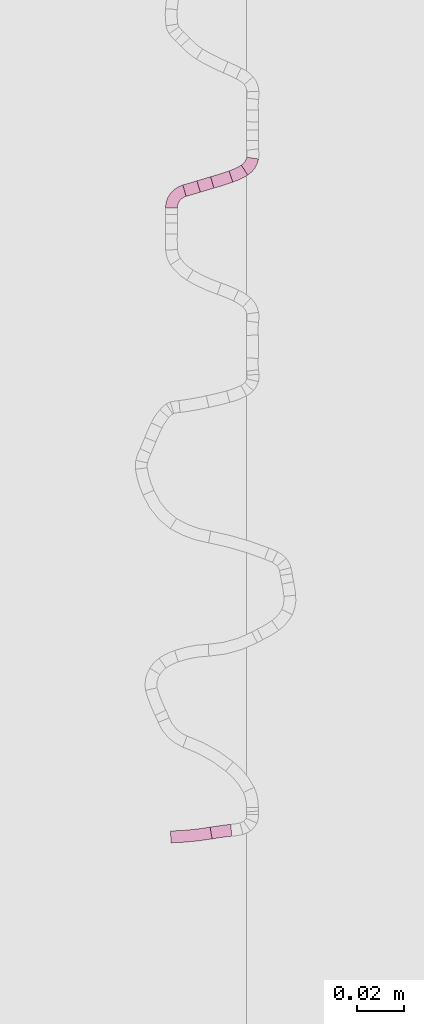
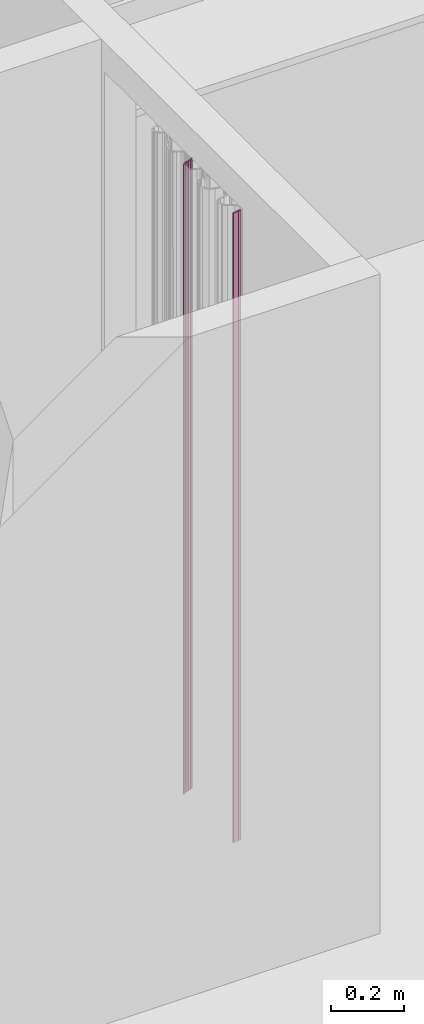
# One storey, part 318 of 418: 8 furnishings.
"""IFC2X3 building model written with IfcOpenShell, lengths in millimetres."""

import ifcopenshell
import ifcopenshell.guid

model = None  # the IFC model being written
_history = None  # IfcOwnerHistory: only IFC2X3 demands one
_inside = {}  # id of a spatial element -> (the spatial element, [elements in it])
_under = {}  # id of a project, library or spatial element -> (it, [spatial elements below it])
_declared = {}  # id of a project -> (the project, [libraries it declares])
_typed = {}  # id of a type object -> (the type object, [elements of that type])
_made_of = {}  # id of a material, layer set ... -> (it, [elements and type objects made of it])


def new_model(schema):
    """Start an empty IFC model of exactly this schema.

    Asked for "IFC4X3", IfcOpenShell would pick the latest addendum, in which some entities
    have other attributes; the version numbers below select the first issue.
    IFC2X3 requires an IfcOwnerHistory on every rooted entity: one is made here for all.
    """
    global model, _history
    if schema == "IFC4X3":
        model = ifcopenshell.file(schema_version=(4, 3, 0, 0))
    else:
        model = ifcopenshell.file(schema=schema)
    _inside.clear()
    _under.clear()
    _declared.clear()
    _typed.clear()
    _made_of.clear()
    _history = None
    if model.schema == "IFC2X3":
        org = make("IfcOrganization", Name="unknown")
        user = make(
            "IfcPersonAndOrganization",
            ThePerson=make("IfcPerson", FamilyName="unknown"),
            TheOrganization=org,
        )
        app = make(
            "IfcApplication",
            ApplicationDeveloper=org,
            Version="unknown",
            ApplicationFullName="unknown",
            ApplicationIdentifier="unknown",
        )
        _history = make(
            "IfcOwnerHistory",
            OwningUser=user,
            OwningApplication=app,
            ChangeAction="ADDED",
            CreationDate=0,
        )
    return model


def make(cls, **values):
    """One entity of the class cls with the attributes given. An attribute that is None is left unset."""
    return model.create_entity(
        cls, **{name: value for name, value in values.items() if value is not None}
    )


def entity(cls, *values):
    """Any entity or typed value of the class cls, its attributes in the order of the schema. None: left unset."""
    e = model.create_entity(cls)
    for i, value in enumerate(values):
        if value is not None:
            e[i] = value
    return e


def rooted(cls, **values):
    """An entity with a GlobalId (a new one), such as an element, a storey or a relation."""
    return make(cls, GlobalId=ifcopenshell.guid.new(), OwnerHistory=_history, **values)


def si_unit(unit_type, name, prefix=None):
    """IfcSIUnit, for example si_unit("LENGTHUNIT", "METRE", prefix="MILLI")."""
    return make("IfcSIUnit", UnitType=unit_type, Prefix=prefix, Name=name)


def converted_unit(unit_type, name, factor, base, dimensions=None, offset=None):
    """IfcConversionBasedUnit, such as the inch: factor (a typed value) times the base unit."""
    return make(
        "IfcConversionBasedUnit"
        if offset is None
        else "IfcConversionBasedUnitWithOffset",
        ConversionOffset=offset,
        Dimensions=None
        if dimensions is None
        else entity("IfcDimensionalExponents", *dimensions),
        UnitType=unit_type,
        Name=name,
        ConversionFactor=make(
            "IfcMeasureWithUnit", ValueComponent=factor, UnitComponent=base
        ),
    )


def derived_unit(unit_type, elements):
    """IfcDerivedUnit: a product of units, each with its exponent."""
    return make(
        "IfcDerivedUnit",
        Elements=[
            make("IfcDerivedUnitElement", Unit=unit, Exponent=power)
            for unit, power in elements
        ],
        UnitType=unit_type,
    )


def money_unit(currency):
    """IfcMonetaryUnit."""
    return make("IfcMonetaryUnit", Currency=currency)


def assignment(units):
    """IfcUnitAssignment: the units of a project."""
    return None if units is None else make("IfcUnitAssignment", Units=units)


def point(xyz):
    """IfcCartesianPoint."""
    return None if xyz is None else make("IfcCartesianPoint", Coordinates=xyz)


def direction(xyz):
    """IfcDirection."""
    return None if xyz is None else make("IfcDirection", DirectionRatios=xyz)


def frame(location, z_axis=None, x_axis=None):
    """IfcAxis2Placement3D, a coordinate frame: its origin and axes. An axis left out is left unset."""
    return make(
        "IfcAxis2Placement3D",
        Location=point(location),
        Axis=direction(z_axis),
        RefDirection=direction(x_axis),
    )


def frame_2d(location, x_axis=None):
    """IfcAxis2Placement2D, a coordinate frame in the plane: its origin and x axis."""
    return make(
        "IfcAxis2Placement2D", Location=point(location), RefDirection=direction(x_axis)
    )


def origin_with_axes():
    """The frame at (0, 0, 0) with the z axis (0, 0, 1) and the x axis (1, 0, 0) written out."""
    return frame((0.0, 0.0, 0.0), z_axis=(0.0, 0.0, 1.0), x_axis=(1.0, 0.0, 0.0))


def place(relative_to, where):
    """IfcLocalPlacement: puts the frame where relative to a parent placement (None: the world)."""
    return make(
        "IfcLocalPlacement", PlacementRelTo=relative_to, RelativePlacement=where
    )


def context(
    kind, dimensions, precision=None, world=None, true_north=None, identifier=None
):
    """IfcGeometricRepresentationContext, for example the 3D "Model" context."""
    return make(
        "IfcGeometricRepresentationContext",
        ContextIdentifier=identifier,
        ContextType=kind,
        CoordinateSpaceDimension=dimensions,
        Precision=precision,
        WorldCoordinateSystem=world,
        TrueNorth=true_north,
    )


def subcontext(parent, identifier, kind, view, scale=None):
    """IfcGeometricRepresentationSubContext, for example "Body" below "Model"."""
    return make(
        "IfcGeometricRepresentationSubContext",
        ContextIdentifier=identifier,
        ContextType=kind,
        ParentContext=parent,
        TargetScale=scale,
        TargetView=view,
    )


def project(units=None, contexts=None):
    """IfcProject with its units and contexts."""
    return rooted(
        "IfcProject",
        Name="project",
        RepresentationContexts=contexts,
        UnitsInContext=assignment(units),
    )


def spatial(cls, under=None, at=None, **own):
    """A site, building, storey or space (cls), placed at a placement, below another one or the project."""
    s = rooted(cls, ObjectPlacement=at, **own)
    if under is not None:
        _under.setdefault(under.id(), (under, []))[1].append(s)
    return s


def polyline(points):
    """IfcPolyline through the points."""
    return make("IfcPolyline", Points=[point(p) for p in points])


def circle_curve(where, radius):
    """IfcCircle in the frame where."""
    return make("IfcCircle", Position=where, Radius=radius)


def parameter(value):
    """IfcParameterValue: where a trimmed curve begins or ends, as a parameter of its basis curve."""
    return model.create_entity("IfcParameterValue", value)


def trimmed(basis, trim1, trim2, sense, master):
    """IfcTrimmedCurve: the piece of a basis curve between two trims."""
    return make(
        "IfcTrimmedCurve",
        BasisCurve=basis,
        Trim1=trim1,
        Trim2=trim2,
        SenseAgreement=sense,
        MasterRepresentation=master,
    )


def segment(curve, same_sense, transition):
    """IfcCompositeCurveSegment."""
    return make(
        "IfcCompositeCurveSegment",
        Transition=transition,
        SameSense=same_sense,
        ParentCurve=curve,
    )


def composite_curve(segments, self_intersect=None):
    """IfcCompositeCurve: segments joined end to end."""
    return make("IfcCompositeCurve", Segments=segments, SelfIntersect=self_intersect)


def outline(outer, holes=None, kind="AREA"):
    """IfcArbitraryClosedProfileDef: a profile drawn as a closed curve; with holes, ...WithVoids."""
    if holes is None:
        return make("IfcArbitraryClosedProfileDef", ProfileType=kind, OuterCurve=outer)
    return make(
        "IfcArbitraryProfileDefWithVoids",
        ProfileType=kind,
        OuterCurve=outer,
        InnerCurves=holes,
    )


def extrude(swept, where, along, depth):
    """IfcExtrudedAreaSolid: the profile swept, set in the frame where, extruded along a direction by depth."""
    return make(
        "IfcExtrudedAreaSolid",
        SweptArea=swept,
        Position=where,
        ExtrudedDirection=direction(along),
        Depth=depth,
    )


def shape(context_of_items, identifier, shape_type, items):
    """IfcShapeRepresentation: the items that make up one representation, for example the "Body"."""
    return make(
        "IfcShapeRepresentation",
        ContextOfItems=context_of_items,
        RepresentationIdentifier=identifier,
        RepresentationType=shape_type,
        Items=items,
    )


def material(Name=None, Category=None):
    """IfcMaterial."""
    return make("IfcMaterial", Name=Name, Category=Category)


def made_of(thing, what):
    """Note that an element or type object is made of a material, layer set ...; save() writes the relation."""
    if what is not None:
        _made_of.setdefault(what.id(), (what, []))[1].append(thing)
    return thing


def type_object(cls, material=None, **own):
    """A type object (cls), such as IfcWallType, which elements share."""
    return made_of(rooted(cls, **own), material)


def element(
    cls,
    number,
    at=None,
    inside=None,
    cuts=None,
    type_object=None,
    material=None,
    context=None,
    identifier="Body",
    shape_type=None,
    held_by="IfcProductDefinitionShape",
    body=None,
    shapes=None,
    **own,
):
    """One element of the class cls, such as IfcWall. Its Tag is "e" and its number.

    at: its placement. inside: the storey or other place that contains it. cuts: it is an
    opening in that element (IfcRelVoidsElement). A single representation is given by context,
    identifier, shape_type and body (its items); several are given by shapes. held_by: the class
    of the entity that holds the representations. save() writes the other relations.
    """
    e = rooted(cls, Tag="e%d" % number, ObjectPlacement=at, **own)
    if body is not None:
        shapes = [shape(context, identifier, shape_type, body)]
    if shapes is not None:
        e.Representation = make(held_by, Representations=shapes)
    if inside is not None:
        _inside.setdefault(inside.id(), (inside, []))[1].append(e)
    if cuts is not None:
        rooted(
            "IfcRelVoidsElement", RelatingBuildingElement=cuts, RelatedOpeningElement=e
        )
    if type_object is not None:
        _typed.setdefault(type_object.id(), (type_object, []))[1].append(e)
    return made_of(e, material)


def aggregate(whole, parts):
    """IfcRelAggregates: a whole, such as a stair, and the parts it consists of."""
    return rooted("IfcRelAggregates", RelatingObject=whole, RelatedObjects=parts)


def save(model, path):
    """Write the relations noted so far, then the file.

    IfcRelAggregates (storeys below a building ...), IfcRelContainedInSpatialStructure (elements
    in a storey), IfcRelDefinesByType, IfcRelAssociatesMaterial and IfcRelDeclares: one each for
    every whole, place, type object, material and project.
    """
    for whole, parts in _under.values():
        aggregate(whole, parts)
    for where, things in _inside.values():
        rooted(
            "IfcRelContainedInSpatialStructure",
            RelatedElements=things,
            RelatingStructure=where,
        )
    for kind, things in _typed.values():
        rooted("IfcRelDefinesByType", RelatedObjects=things, RelatingType=kind)
    for what, things in _made_of.values():
        rooted("IfcRelAssociatesMaterial", RelatedObjects=things, RelatingMaterial=what)
    for by, libraries in _declared.values():
        rooted("IfcRelDeclares", RelatingContext=by, RelatedDefinitions=libraries)
    model.write(path)


model = new_model("IFC2X3")

# Units and contexts
model_context = context("Model", 3, precision=0.01, world=origin_with_axes(), true_north=direction((0.0, 1.0)))
body_context = subcontext(model_context, "Body", "Model", "MODEL_VIEW")
ifc_project = project(units=[si_unit("LENGTHUNIT", "METRE", prefix="MILLI"), si_unit("AREAUNIT", "SQUARE_METRE"), si_unit("VOLUMEUNIT", "CUBIC_METRE"), converted_unit("PLANEANGLEUNIT", "DEGREE", entity("IfcPlaneAngleMeasure", 0.0174532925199), si_unit("PLANEANGLEUNIT", "RADIAN"), dimensions=[0, 0, 0, 0, 0, 0, 0]), si_unit("SOLIDANGLEUNIT", "STERADIAN"), money_unit("EUR"), converted_unit("TIMEUNIT", "Year", entity("IfcTimeMeasure", 31556926.0), si_unit("TIMEUNIT", "SECOND"), dimensions=[0, 0, 1, 0, 0, 0, 0]), si_unit("MASSUNIT", "GRAM", prefix="KILO"), si_unit("THERMODYNAMICTEMPERATUREUNIT", "DEGREE_CELSIUS"), si_unit("LUMINOUSINTENSITYUNIT", "LUMEN"), si_unit("ENERGYUNIT", "JOULE", prefix="MEGA"), derived_unit("THERMALCONDUCTANCEUNIT", [(si_unit("POWERUNIT", "WATT"), 1), (si_unit("LENGTHUNIT", "METRE"), -1), (si_unit("THERMODYNAMICTEMPERATUREUNIT", "KELVIN"), -1)]), derived_unit("SPECIFICHEATCAPACITYUNIT", [(si_unit("ENERGYUNIT", "JOULE"), 1), (si_unit("MASSUNIT", "GRAM", prefix="KILO"), -1), (si_unit("THERMODYNAMICTEMPERATUREUNIT", "KELVIN"), -1)]), derived_unit("MASSDENSITYUNIT", [(si_unit("MASSUNIT", "GRAM", prefix="KILO"), 1), (si_unit("VOLUMEUNIT", "CUBIC_METRE"), -1)])], contexts=[model_context])

# Site, building, storey
site_placement = place(None, origin_with_axes())
site = spatial("IfcSite", under=ifc_project, at=site_placement, Name="Paldiski mnt 245/1, Tallinn, Harjumaa", CompositionType="COMPLEX")
building_placement = place(site_placement, origin_with_axes())
building = spatial("IfcBuilding", under=site, at=building_placement, Name="RKAS Hoone üldnimetus (kasutust iseloomustav) -> IFC Project Manager -> SOLIBRI", CompositionType="ELEMENT")
storey_placement = place(building_placement, origin_with_axes())
storey = spatial("IfcBuildingStorey", under=building, at=storey_placement, Name="Esimene korrus", CompositionType="ELEMENT", Elevation=0.0)

# Furnishings
ifc_material = material(Name="KON-00_GENEERILINE - KONSTRUKTSIOON")
furniture_type = type_object("IfcFurnitureType", Name="KON-00_GENEERILINE - KONSTRUKTSIOON 5", AssemblyPlace="NOTDEFINED")
furnishing_1_placement = place(storey_placement, frame((-44049.1939617, -2058.82006747, 0.0), z_axis=(0.0, 0.0, 1.0), x_axis=(-0.963986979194, -0.265949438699, 0.0)))
element("IfcFurnishingElement", 1, at=furnishing_1_placement, inside=storey, type_object=furniture_type, material=ifc_material, Name="SS-09", context=body_context, shape_type="SweptSolid", body=[
    extrude(outline(composite_curve([segment(trimmed(circle_curve(frame_2d((0.0, 10.0135350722), x_axis=(0.0, -1.0)), 10.0135350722), [point((2.41584530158e-10, 0.0)), parameter(0.0)], [point((9.67862147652, 7.44542857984)), parameter(75.1396768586)], True, "CARTESIAN"), True, "CONTINUOUS"), segment(polyline([(9.67862147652, 7.44542857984), (4.84431604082, 8.72197167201)]), True, "CONTINUOUS"), segment(trimmed(circle_curve(frame_2d((0.0, 10.0135350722), x_axis=(-0.00357183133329, -0.99999362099)), 5.01353507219), [point((4.84431604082, 8.72197167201)), parameter(75.2760411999)], [point((-0.0179075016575, 5.00003198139)), parameter(0.0)], False, "CARTESIAN"), True, "CONTINUOUS"), segment(polyline([(-0.0179075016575, 5.00003198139), (2.41584530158e-10, 0.0)]), True, "CONTINUOUS")], self_intersect=False)), origin_with_axes(), (0.0, 0.0, 1.0), 2100.0),
])
furnishing_2_placement = place(storey_placement, frame((-44049.1939617, -2058.82006747, 0.0), z_axis=(0.0, 0.0, 1.0), x_axis=(0.961640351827, 0.274313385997, 0.0)))
element("IfcFurnishingElement", 2, at=furnishing_2_placement, inside=storey, type_object=furniture_type, material=ifc_material, Name="SS-08", context=body_context, shape_type="SweptSolid", body=[
    extrude(outline(composite_curve([segment(trimmed(circle_curve(frame_2d((1.00685085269e-10, 286.895755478), x_axis=(-8.74543530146e-05, -0.999999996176)), 291.895755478), [point((-0.0255275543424, -4.99999888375)), parameter(0.0)], [point((6.25311499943, -4.9330138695)), parameter(1.23251921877)], True, "CARTESIAN"), True, "CONTINUOUS"), segment(polyline([(6.25311499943, -4.9330138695), (6.1541134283, 0.0660126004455)]), True, "CONTINUOUS"), segment(trimmed(circle_curve(frame_2d((0.0, 286.895755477), x_axis=(0.0, -1.0)), 286.895755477), [point((6.1541134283, 0.0660126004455)), parameter(1.22912857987)], [point((-1.13686837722e-10, 0.0)), parameter(0.0)], False, "CARTESIAN"), True, "CONTINUOUS"), segment(polyline([(-1.13686837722e-10, 0.0), (-0.0255275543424, -4.99999888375)]), True, "CONTINUOUS")], self_intersect=False)), origin_with_axes(), (0.0, 0.0, 1.0), 2100.0),
])
furnishing_3_placement = place(storey_placement, frame((-44037.4938593, -2055.33914761, 0.0), z_axis=(0.0, 0.0, 1.0), x_axis=(-0.960094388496, -0.27967617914, 0.0)))
element("IfcFurnishingElement", 3, at=furnishing_3_placement, inside=storey, type_object=furniture_type, material=ifc_material, Name="SS-07", context=body_context, shape_type="SweptSolid", body=[
    extrude(outline(composite_curve([segment(trimmed(circle_curve(frame_2d((0.0, 480.648708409), x_axis=(0.0, -1.0)), 480.648708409), [point((1.4921397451e-10, 0.0)), parameter(0.0)], [point((6.0523469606, 0.0381072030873)), parameter(0.72148971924)], True, "CARTESIAN"), True, "CONTINUOUS"), segment(polyline([(6.0523469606, 0.0381072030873), (5.98124728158, 5.0376083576)]), True, "CONTINUOUS"), segment(trimmed(circle_curve(frame_2d((0.0, 480.648708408), x_axis=(6.81798572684e-05, -0.999999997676)), 475.648708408), [point((5.98124728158, 5.0376083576)), parameter(0.716602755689)], [point((0.0324296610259, 5.00000110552)), parameter(0.0)], False, "CARTESIAN"), True, "CONTINUOUS"), segment(polyline([(0.0324296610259, 5.00000110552), (1.4921397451e-10, 0.0)]), True, "CONTINUOUS")], self_intersect=False)), origin_with_axes(), (0.0, 0.0, 1.0), 2100.0),
])
furnishing_4_placement = place(storey_placement, frame((-44054.360111, -2330.91827608, 0.0), z_axis=(0.0, 0.0, 1.0), x_axis=(0.999689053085, 0.0249358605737, 0.0)))
element("IfcFurnishingElement", 4, at=furnishing_4_placement, inside=storey, type_object=furniture_type, material=ifc_material, Name="SS-71", context=body_context, shape_type="SweptSolid", body=[
    extrude(outline(composite_curve([segment(trimmed(circle_curve(frame_2d((0.0, 116.225501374), x_axis=(0.0, -1.0)), 121.225501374), [point((0.0, -5.0)), parameter(0.0)], [point((17.3881490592, -3.74647225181)), parameter(8.24674483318)], True, "CARTESIAN"), True, "CONTINUOUS"), segment(polyline([(17.3881490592, -3.74647225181), (16.6710499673, 1.20183744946)]), True, "CONTINUOUS"), segment(trimmed(circle_curve(frame_2d((0.0, 116.225501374), x_axis=(0.0, -1.0)), 116.225501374), [point((16.6710499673, 1.20183744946)), parameter(8.24678612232)], [point((0.0, 0.0)), parameter(0.0)], False, "CARTESIAN"), True, "CONTINUOUS"), segment(polyline([(0.0, 0.0), (0.0, -5.0)]), True, "CONTINUOUS")], self_intersect=False)), origin_with_axes(), (0.0, 0.0, 1.0), 2100.0),
])
furnishing_5_placement = place(storey_placement, frame((-44029.0150064, -2328.11661026, 0.0), z_axis=(0.0, 0.0, 1.0), x_axis=(-0.994851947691, -0.101339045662, 0.0)))
element("IfcFurnishingElement", 5, at=furnishing_5_placement, inside=storey, type_object=furniture_type, material=ifc_material, Name="SS-70", context=body_context, shape_type="SweptSolid", body=[
    extrude(outline(composite_curve([segment(trimmed(circle_curve(frame_2d((0.0, 130.577301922), x_axis=(0.0, -1.0)), 130.577301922), [point((0.0, 0.0)), parameter(0.0)], [point((8.78440742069, 0.295814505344)), parameter(3.85740767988)], True, "CARTESIAN"), True, "CONTINUOUS"), segment(polyline([(8.78440742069, 0.295814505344), (8.44795564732, 5.28448168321)]), True, "CONTINUOUS"), segment(trimmed(circle_curve(frame_2d((0.0, 130.577301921), x_axis=(0.000902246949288, -0.999999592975)), 125.577301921), [point((8.44795564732, 5.28448168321)), parameter(3.80567446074)], [point((0.113301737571, 5.00005111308)), parameter(0.0)], False, "CARTESIAN"), True, "CONTINUOUS"), segment(polyline([(0.113301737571, 5.00005111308), (0.0, 0.0)]), True, "CONTINUOUS")], self_intersect=False)), origin_with_axes(), (0.0, 0.0, 1.0), 2100.0),
])
furnishing_6_placement = place(storey_placement, frame((-44037.4938593, -2055.33914761, 0.0), z_axis=(0.0, 0.0, 1.0), x_axis=(0.963689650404, 0.267024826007, 0.0)))
element("IfcFurnishingElement", 6, at=furnishing_6_placement, inside=storey, type_object=furniture_type, material=ifc_material, Name="SS-06", context=body_context, shape_type="SweptSolid", body=[
    extrude(outline(composite_curve([segment(trimmed(circle_curve(frame_2d((0.0, 109.873180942), x_axis=(0.000290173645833, -0.9999999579)), 114.873180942), [point((0.0333331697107, -4.9999951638)), parameter(0.0)], [point((8.40304726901, -4.69224358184)), parameter(4.17834441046)], True, "CARTESIAN"), True, "CONTINUOUS"), segment(polyline([(8.40304726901, -4.69224358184), (8.10769926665, 0.299547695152)]), True, "CONTINUOUS"), segment(trimmed(circle_curve(frame_2d((0.0, 109.873180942), x_axis=(0.0, -1.0)), 109.873180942), [point((8.10769926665, 0.299547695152)), parameter(4.23178397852)], [point((-1.84741111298e-10, 0.0)), parameter(0.0)], False, "CARTESIAN"), True, "CONTINUOUS"), segment(polyline([(-1.84741111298e-10, 0.0), (0.0333331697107, -4.9999951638)]), True, "CONTINUOUS")], self_intersect=False)), origin_with_axes(), (0.0, 0.0, 1.0), 2100.0),
])
furnishing_7_placement = place(storey_placement, frame((-44029.7605401, -2052.88551961, 0.0), z_axis=(0.0, 0.0, 1.0), x_axis=(0.951268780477, 0.308362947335, 0.0)))
element("IfcFurnishingElement", 7, at=furnishing_7_placement, inside=storey, type_object=furniture_type, material=ifc_material, Name="SS-05", context=body_context, shape_type="SweptSolid", body=[
    extrude(outline(composite_curve([segment(trimmed(circle_curve(frame_2d((0.0, 22.9575850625), x_axis=(0.00284924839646, -0.999995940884)), 27.9575850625), [point((0.07965810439, -4.99988651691)), parameter(0.0)], [point((6.92680675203, -4.12831368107)), parameter(14.1818249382)], True, "CARTESIAN"), True, "CONTINUOUS"), segment(polyline([(6.92680675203, -4.12831368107), (5.68054519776, 0.713886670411)]), True, "CONTINUOUS"), segment(trimmed(circle_curve(frame_2d((0.0, 22.9575850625), x_axis=(0.0, -1.0)), 22.9575850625), [point((5.68054519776, 0.713886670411)), parameter(14.3258709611)], [point((1.7763568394e-10, 0.0)), parameter(0.0)], False, "CARTESIAN"), True, "CONTINUOUS"), segment(polyline([(1.7763568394e-10, 0.0), (0.07965810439, -4.99988651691)]), True, "CONTINUOUS")], self_intersect=False)), origin_with_axes(), (0.0, 0.0, 1.0), 2100.0),
])
furnishing_8_placement = place(storey_placement, frame((-44024.576951, -2050.45475185, 0.0), z_axis=(0.0, 0.0, 1.0), x_axis=(0.843112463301, 0.537737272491, 0.0)))
element("IfcFurnishingElement", 8, at=furnishing_8_placement, inside=storey, type_object=furniture_type, material=ifc_material, Name="SS-04", context=body_context, shape_type="SweptSolid", body=[
    extrude(outline(composite_curve([segment(trimmed(circle_curve(frame_2d((0.0, 5.26229763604), x_axis=(-0.00115551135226, -0.999999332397)), 10.262297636), [point((-0.0118582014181, -4.99999314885)), parameter(0.0)], [point((7.50374161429, -1.73831766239)), parameter(47.0528821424)], True, "CARTESIAN"), True, "CONTINUOUS"), segment(polyline([(7.50374161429, -1.73831766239), (3.76481920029, 1.58562620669)]), True, "CONTINUOUS"), segment(trimmed(circle_curve(frame_2d((0.0, 5.26229763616), x_axis=(0.0, -1.0)), 5.26229763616), [point((3.76481920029, 1.58562620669)), parameter(45.6786622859)], [point((0.0, 0.0)), parameter(0.0)], False, "CARTESIAN"), True, "CONTINUOUS"), segment(polyline([(0.0, 0.0), (-0.0118582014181, -4.99999314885)]), True, "CONTINUOUS")], self_intersect=False)), origin_with_axes(), (0.0, 0.0, 1.0), 2100.0),
])

save(model, "model.ifc")
